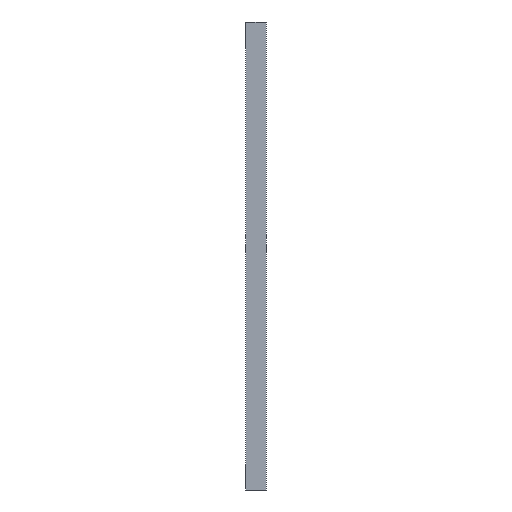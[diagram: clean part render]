
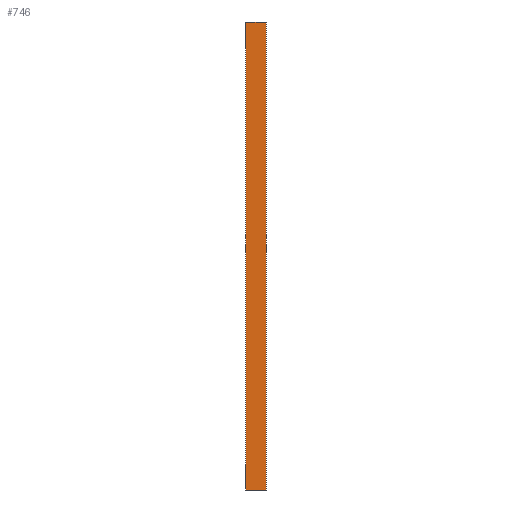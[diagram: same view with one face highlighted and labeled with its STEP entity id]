
A CAD part, left-side view. The second image highlights one B-rep face of the part: STEP entity #746.
In plain terms, the highlighted planar face has unit normal (-1, 0, 0).
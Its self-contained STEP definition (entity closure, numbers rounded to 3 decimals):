
#2 = VERTEX_POINT ( 'NONE', #229 ) ;
#8 = LINE ( 'NONE', #1223, #449 ) ;
#42 = VERTEX_POINT ( 'NONE', #1026 ) ;
#47 = ORIENTED_EDGE ( 'NONE', *, *, #1004, .T. ) ;
#70 = DIRECTION ( 'NONE',  ( 0., 0., 1. ) ) ;
#98 = LINE ( 'NONE', #649, #744 ) ;
#132 = CARTESIAN_POINT ( 'NONE',  ( -8., 0., 0. ) ) ;
#179 = CARTESIAN_POINT ( 'NONE',  ( -8., 12.5, 0. ) ) ;
#189 = ORIENTED_EDGE ( 'NONE', *, *, #876, .F. ) ;
#191 = LINE ( 'NONE', #841, #651 ) ;
#193 = DIRECTION ( 'NONE',  ( 0., -1., 0. ) ) ;
#213 = DIRECTION ( 'NONE',  ( 0., 0., -1. ) ) ;
#229 = CARTESIAN_POINT ( 'NONE',  ( -8., 0., 279. ) ) ;
#234 = EDGE_CURVE ( 'NONE', #42, #710, #856, .T. ) ;
#259 = ORIENTED_EDGE ( 'NONE', *, *, #788, .F. ) ;
#283 = EDGE_CURVE ( 'NONE', #2, #506, #1061, .T. ) ;
#328 = ORIENTED_EDGE ( 'NONE', *, *, #234, .T. ) ;
#380 = ORIENTED_EDGE ( 'NONE', *, *, #1033, .T. ) ;
#382 = CARTESIAN_POINT ( 'NONE',  ( -8., 3.2, 0. ) ) ;
#426 = VECTOR ( 'NONE', #213, 1000. ) ;
#439 = DIRECTION ( 'NONE',  ( 0., 1., 0. ) ) ;
#449 = VECTOR ( 'NONE', #1077, 1000. ) ;
#450 = CARTESIAN_POINT ( 'NONE',  ( -8., 9.3, 0. ) ) ;
#487 = VERTEX_POINT ( 'NONE', #450 ) ;
#506 = VERTEX_POINT ( 'NONE', #974 ) ;
#525 = FACE_OUTER_BOUND ( 'NONE', #922, .T. ) ;
#559 = VECTOR ( 'NONE', #193, 1000. ) ;
#629 = VECTOR ( 'NONE', #956, 1000. ) ;
#632 = VECTOR ( 'NONE', #814, 1000. ) ;
#637 = CARTESIAN_POINT ( 'NONE',  ( -8., 12.5, 279. ) ) ;
#649 = CARTESIAN_POINT ( 'NONE',  ( -8., 0., 279. ) ) ;
#651 = VECTOR ( 'NONE', #728, 1000. ) ;
#665 = LINE ( 'NONE', #132, #764 ) ;
#709 = CARTESIAN_POINT ( 'NONE',  ( -8., 9.3, 279. ) ) ;
#710 = VERTEX_POINT ( 'NONE', #179 ) ;
#728 = DIRECTION ( 'NONE',  ( 0., 1., 0. ) ) ;
#736 = CARTESIAN_POINT ( 'NONE',  ( -8., 0., 279. ) ) ;
#744 = VECTOR ( 'NONE', #439, 1000. ) ;
#746 = ADVANCED_FACE ( 'NONE', ( #525 ), #1152, .T. ) ;
#764 = VECTOR ( 'NONE', #1105, 1000. ) ;
#768 = CARTESIAN_POINT ( 'NONE',  ( -8., 3.2, 279. ) ) ;
#788 = EDGE_CURVE ( 'NONE', #1002, #2, #938, .T. ) ;
#814 = DIRECTION ( 'NONE',  ( 0., -1., 0. ) ) ;
#841 = CARTESIAN_POINT ( 'NONE',  ( -8., 12.5, 279. ) ) ;
#848 = ORIENTED_EDGE ( 'NONE', *, *, #283, .F. ) ;
#856 = LINE ( 'NONE', #637, #629 ) ;
#866 = VERTEX_POINT ( 'NONE', #382 ) ;
#876 = EDGE_CURVE ( 'NONE', #866, #487, #665, .T. ) ;
#901 = ORIENTED_EDGE ( 'NONE', *, *, #1006, .F. ) ;
#910 = LINE ( 'NONE', #1365, #632 ) ;
#922 = EDGE_LOOP ( 'NONE', ( #189, #380, #848, #259, #47, #1102, #328, #901 ) ) ;
#938 = LINE ( 'NONE', #736, #559 ) ;
#956 = DIRECTION ( 'NONE',  ( 0., 0., -1. ) ) ;
#974 = CARTESIAN_POINT ( 'NONE',  ( -8., 0., 0. ) ) ;
#1002 = VERTEX_POINT ( 'NONE', #768 ) ;
#1004 = EDGE_CURVE ( 'NONE', #1002, #1347, #98, .T. ) ;
#1006 = EDGE_CURVE ( 'NONE', #487, #710, #8, .T. ) ;
#1026 = CARTESIAN_POINT ( 'NONE',  ( -8., 12.5, 279. ) ) ;
#1033 = EDGE_CURVE ( 'NONE', #866, #506, #910, .T. ) ;
#1055 = CARTESIAN_POINT ( 'NONE',  ( -8., 0., 279. ) ) ;
#1061 = LINE ( 'NONE', #1391, #426 ) ;
#1064 = DIRECTION ( 'NONE',  ( -1., 0., 0. ) ) ;
#1077 = DIRECTION ( 'NONE',  ( 0., 1., 0. ) ) ;
#1102 = ORIENTED_EDGE ( 'NONE', *, *, #1204, .T. ) ;
#1105 = DIRECTION ( 'NONE',  ( 0., 1., 0. ) ) ;
#1152 = PLANE ( 'NONE',  #1253 ) ;
#1204 = EDGE_CURVE ( 'NONE', #1347, #42, #191, .T. ) ;
#1223 = CARTESIAN_POINT ( 'NONE',  ( -8., 0., 0. ) ) ;
#1253 = AXIS2_PLACEMENT_3D ( 'NONE', #1055, #1064, #70 ) ;
#1347 = VERTEX_POINT ( 'NONE', #709 ) ;
#1365 = CARTESIAN_POINT ( 'NONE',  ( -8., 0., 0. ) ) ;
#1391 = CARTESIAN_POINT ( 'NONE',  ( -8., 0., 279. ) ) ;
